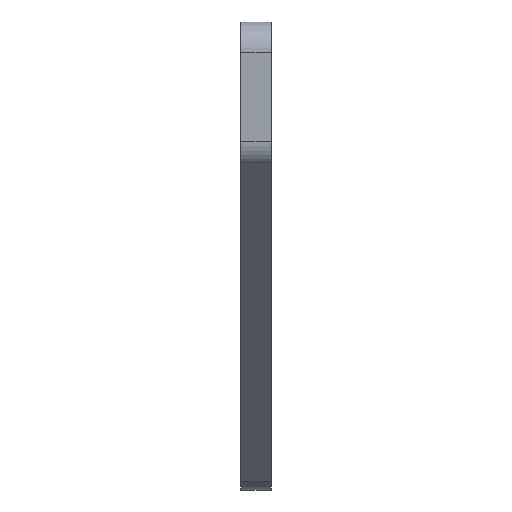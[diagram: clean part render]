
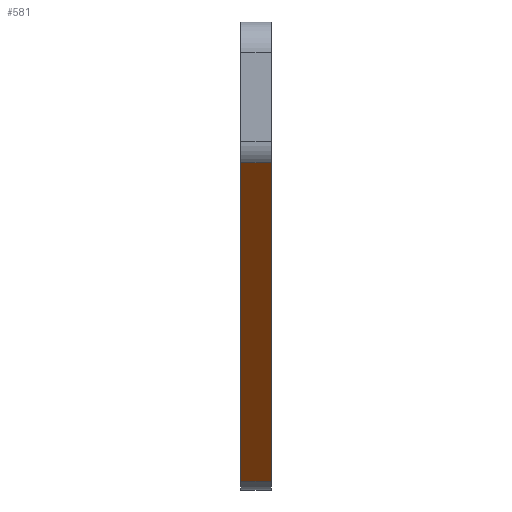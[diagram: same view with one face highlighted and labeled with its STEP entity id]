
A CAD part, left-side view. The second image highlights one B-rep face of the part: STEP entity #581.
In plain terms, the highlighted planar face has unit normal (-0.707, 0, -0.707).
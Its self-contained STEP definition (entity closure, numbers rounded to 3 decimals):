
#33 = ORIENTED_EDGE ( 'NONE', *, *, #658, .F. ) ;
#52 = DIRECTION ( 'NONE',  ( 0.707, 0., -0.707 ) ) ;
#66 = AXIS2_PLACEMENT_3D ( 'NONE', #875, #441, #52 ) ;
#172 = LINE ( 'NONE', #553, #399 ) ;
#201 = CARTESIAN_POINT ( 'NONE',  ( -3.586, 2., -6.914 ) ) ;
#254 = ORIENTED_EDGE ( 'NONE', *, *, #272, .F. ) ;
#257 = VERTEX_POINT ( 'NONE', #475 ) ;
#262 = DIRECTION ( 'NONE',  ( -0.707, 0., 0.707 ) ) ;
#272 = EDGE_CURVE ( 'NONE', #323, #257, #775, .T. ) ;
#304 = DIRECTION ( 'NONE',  ( 0., -1., 0. ) ) ;
#311 = VECTOR ( 'NONE', #830, 1000. ) ;
#316 = CARTESIAN_POINT ( 'NONE',  ( -3.586, 2., -6.914 ) ) ;
#317 = ORIENTED_EDGE ( 'NONE', *, *, #914, .T. ) ;
#323 = VERTEX_POINT ( 'NONE', #201 ) ;
#331 = ORIENTED_EDGE ( 'NONE', *, *, #461, .T. ) ;
#379 = CARTESIAN_POINT ( 'NONE',  ( -24.414, 0., 13.914 ) ) ;
#399 = VECTOR ( 'NONE', #719, 1000. ) ;
#405 = CARTESIAN_POINT ( 'NONE',  ( -24.414, 2., 13.914 ) ) ;
#441 = DIRECTION ( 'NONE',  ( 0.707, 0., 0.707 ) ) ;
#461 = EDGE_CURVE ( 'NONE', #602, #725, #172, .T. ) ;
#475 = CARTESIAN_POINT ( 'NONE',  ( -24.414, 2., 13.914 ) ) ;
#481 = EDGE_LOOP ( 'NONE', ( #331, #33, #254, #317 ) ) ;
#533 = CARTESIAN_POINT ( 'NONE',  ( -24.414, 2., 13.914 ) ) ;
#553 = CARTESIAN_POINT ( 'NONE',  ( -24.414, 0., 13.914 ) ) ;
#579 = PLANE ( 'NONE',  #66 ) ;
#581 = ADVANCED_FACE ( 'NONE', ( #654 ), #579, .F. ) ;
#602 = VERTEX_POINT ( 'NONE', #732 ) ;
#649 = VECTOR ( 'NONE', #304, 1000. ) ;
#654 = FACE_OUTER_BOUND ( 'NONE', #481, .T. ) ;
#658 = EDGE_CURVE ( 'NONE', #257, #725, #976, .T. ) ;
#719 = DIRECTION ( 'NONE',  ( -0.707, 0., 0.707 ) ) ;
#725 = VERTEX_POINT ( 'NONE', #379 ) ;
#732 = CARTESIAN_POINT ( 'NONE',  ( -3.586, 0., -6.914 ) ) ;
#751 = LINE ( 'NONE', #316, #311 ) ;
#775 = LINE ( 'NONE', #405, #964 ) ;
#830 = DIRECTION ( 'NONE',  ( 0., -1., 0. ) ) ;
#875 = CARTESIAN_POINT ( 'NONE',  ( -24.414, 2., 13.914 ) ) ;
#914 = EDGE_CURVE ( 'NONE', #323, #602, #751, .T. ) ;
#964 = VECTOR ( 'NONE', #262, 1000. ) ;
#976 = LINE ( 'NONE', #533, #649 ) ;
